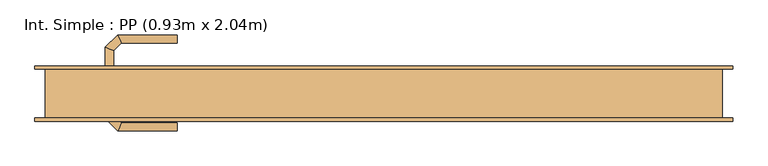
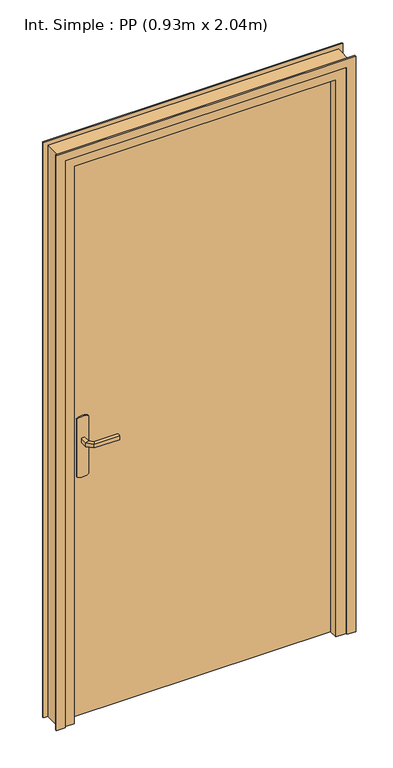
"""IFC4 building model written with IfcOpenShell, lengths in millimetres: door geometry, Int. Simple : PP (0.93m x 2.04m)."""

import ifcopenshell
import ifcopenshell.guid

model = None  # the IFC model being written
_history = None  # IfcOwnerHistory: only IFC2X3 demands one
_inside = {}  # id of a spatial element -> (the spatial element, [elements in it])
_under = {}  # id of a project, library or spatial element -> (it, [spatial elements below it])
_declared = {}  # id of a project -> (the project, [libraries it declares])
_typed = {}  # id of a type object -> (the type object, [elements of that type])
_made_of = {}  # id of a material, layer set ... -> (it, [elements and type objects made of it])


def new_model(schema):
    """Start an empty IFC model of exactly this schema.

    Asked for "IFC4X3", IfcOpenShell would pick the latest addendum, in which some entities
    have other attributes; the version numbers below select the first issue.
    IFC2X3 requires an IfcOwnerHistory on every rooted entity: one is made here for all.
    """
    global model, _history
    if schema == "IFC4X3":
        model = ifcopenshell.file(schema_version=(4, 3, 0, 0))
    else:
        model = ifcopenshell.file(schema=schema)
    _inside.clear()
    _under.clear()
    _declared.clear()
    _typed.clear()
    _made_of.clear()
    _history = None
    if model.schema == "IFC2X3":
        org = make("IfcOrganization", Name="unknown")
        user = make(
            "IfcPersonAndOrganization",
            ThePerson=make("IfcPerson", FamilyName="unknown"),
            TheOrganization=org,
        )
        app = make(
            "IfcApplication",
            ApplicationDeveloper=org,
            Version="unknown",
            ApplicationFullName="unknown",
            ApplicationIdentifier="unknown",
        )
        _history = make(
            "IfcOwnerHistory",
            OwningUser=user,
            OwningApplication=app,
            ChangeAction="ADDED",
            CreationDate=0,
        )
    return model


def make(cls, **values):
    """One entity of the class cls with the attributes given. An attribute that is None is left unset."""
    return model.create_entity(
        cls, **{name: value for name, value in values.items() if value is not None}
    )


def rooted(cls, **values):
    """An entity with a GlobalId (a new one), such as an element, a storey or a relation."""
    return make(cls, GlobalId=ifcopenshell.guid.new(), OwnerHistory=_history, **values)


def si_unit(unit_type, name, prefix=None):
    """IfcSIUnit, for example si_unit("LENGTHUNIT", "METRE", prefix="MILLI")."""
    return make("IfcSIUnit", UnitType=unit_type, Prefix=prefix, Name=name)


def assignment(units):
    """IfcUnitAssignment: the units of a project."""
    return None if units is None else make("IfcUnitAssignment", Units=units)


def point(xyz):
    """IfcCartesianPoint."""
    return None if xyz is None else make("IfcCartesianPoint", Coordinates=xyz)


def direction(xyz):
    """IfcDirection."""
    return None if xyz is None else make("IfcDirection", DirectionRatios=xyz)


def frame(location, z_axis=None, x_axis=None):
    """IfcAxis2Placement3D, a coordinate frame: its origin and axes. An axis left out is left unset."""
    return make(
        "IfcAxis2Placement3D",
        Location=point(location),
        Axis=direction(z_axis),
        RefDirection=direction(x_axis),
    )


def frame_2d(location, x_axis=None):
    """IfcAxis2Placement2D, a coordinate frame in the plane: its origin and x axis."""
    return make(
        "IfcAxis2Placement2D", Location=point(location), RefDirection=direction(x_axis)
    )


def origin():
    """The frame at (0, 0, 0) with its axes left unset."""
    return frame((0.0, 0.0, 0.0))


def origin_with_axes():
    """The frame at (0, 0, 0) with the z axis (0, 0, 1) and the x axis (1, 0, 0) written out."""
    return frame((0.0, 0.0, 0.0), z_axis=(0.0, 0.0, 1.0), x_axis=(1.0, 0.0, 0.0))


def place(relative_to, where):
    """IfcLocalPlacement: puts the frame where relative to a parent placement (None: the world)."""
    return make(
        "IfcLocalPlacement", PlacementRelTo=relative_to, RelativePlacement=where
    )


def context(
    kind, dimensions, precision=None, world=None, true_north=None, identifier=None
):
    """IfcGeometricRepresentationContext, for example the 3D "Model" context."""
    return make(
        "IfcGeometricRepresentationContext",
        ContextIdentifier=identifier,
        ContextType=kind,
        CoordinateSpaceDimension=dimensions,
        Precision=precision,
        WorldCoordinateSystem=world,
        TrueNorth=true_north,
    )


def project(units=None, contexts=None):
    """IfcProject with its units and contexts."""
    return rooted(
        "IfcProject",
        Name="project",
        RepresentationContexts=contexts,
        UnitsInContext=assignment(units),
    )


def spatial(cls, under=None, at=None, **own):
    """A site, building, storey or space (cls), placed at a placement, below another one or the project."""
    s = rooted(cls, ObjectPlacement=at, **own)
    if under is not None:
        _under.setdefault(under.id(), (under, []))[1].append(s)
    return s


def polyline(points):
    """IfcPolyline through the points."""
    return make("IfcPolyline", Points=[point(p) for p in points])


def circle_curve(where, radius):
    """IfcCircle in the frame where."""
    return make("IfcCircle", Position=where, Radius=radius)


def ellipse_curve(where, semi_axis1, semi_axis2):
    """IfcEllipse in the frame where."""
    return make(
        "IfcEllipse", Position=where, SemiAxis1=semi_axis1, SemiAxis2=semi_axis2
    )


def trimmed(basis, trim1, trim2, sense, master):
    """IfcTrimmedCurve: the piece of a basis curve between two trims."""
    return make(
        "IfcTrimmedCurve",
        BasisCurve=basis,
        Trim1=trim1,
        Trim2=trim2,
        SenseAgreement=sense,
        MasterRepresentation=master,
    )


def segment(curve, same_sense, transition):
    """IfcCompositeCurveSegment."""
    return make(
        "IfcCompositeCurveSegment",
        Transition=transition,
        SameSense=same_sense,
        ParentCurve=curve,
    )


def composite_curve(segments, self_intersect=None):
    """IfcCompositeCurve: segments joined end to end."""
    return make("IfcCompositeCurve", Segments=segments, SelfIntersect=self_intersect)


def outline(outer, holes=None, kind="AREA"):
    """IfcArbitraryClosedProfileDef: a profile drawn as a closed curve; with holes, ...WithVoids."""
    if holes is None:
        return make("IfcArbitraryClosedProfileDef", ProfileType=kind, OuterCurve=outer)
    return make(
        "IfcArbitraryProfileDefWithVoids",
        ProfileType=kind,
        OuterCurve=outer,
        InnerCurves=holes,
    )


def extrude(swept, where, along, depth):
    """IfcExtrudedAreaSolid: the profile swept, set in the frame where, extruded along a direction by depth."""
    return make(
        "IfcExtrudedAreaSolid",
        SweptArea=swept,
        Position=where,
        ExtrudedDirection=direction(along),
        Depth=depth,
    )


def faces_of(points, faces, orient=None, outer=None):
    """IfcFace entities. A face is a list of loops; a loop is a list of indices into points, from 0.

    orient and outer hold one flag for each loop. By default every Orientation is true, the
    first loop of a face is its IfcFaceOuterBound and the others are IfcFaceBound.
    """
    made = []
    for i, loops in enumerate(faces):
        bounds = []
        for j, loop in enumerate(loops):
            is_outer = j == 0 if outer is None else outer[i][j]
            bounds.append(
                make(
                    "IfcFaceOuterBound" if is_outer else "IfcFaceBound",
                    Bound=make("IfcPolyLoop", Polygon=[points[k] for k in loop]),
                    Orientation=True if orient is None else orient[i][j],
                )
            )
        made.append(make("IfcFace", Bounds=bounds))
    return made


def faceted_brep(points, faces, orient=None, outer=None, voids=None):
    """IfcFacetedBrep: a solid bounded by flat faces; with voids (closed shells), ...WithVoids."""
    shared = [point(p) for p in points]
    hull = make("IfcClosedShell", CfsFaces=faces_of(shared, faces, orient, outer))
    if voids is None:
        return make("IfcFacetedBrep", Outer=hull)
    return make(
        "IfcFacetedBrepWithVoids",
        Outer=hull,
        Voids=[
            make(cls, CfsFaces=faces_of(shared, fs, o, b)) for cls, fs, o, b in voids
        ],
    )


def shape(context_of_items, identifier, shape_type, items):
    """IfcShapeRepresentation: the items that make up one representation, for example the "Body"."""
    return make(
        "IfcShapeRepresentation",
        ContextOfItems=context_of_items,
        RepresentationIdentifier=identifier,
        RepresentationType=shape_type,
        Items=items,
    )


def source(mapping_origin, context_of_items, identifier, shape_type, items):
    """IfcRepresentationMap: a shape defined once, which mapped items show again and again."""
    return make(
        "IfcRepresentationMap",
        MappingOrigin=mapping_origin,
        MappedRepresentation=shape(context_of_items, identifier, shape_type, items),
    )


def transform(
    local_origin,
    x_axis=None,
    y_axis=None,
    z_axis=None,
    scale=None,
    scale2=None,
    scale3=None,
    uniform=True,
):
    """IfcCartesianTransformationOperator3D, or its non-uniform kind. x_axis, y_axis, z_axis: its Axis1, 2, 3."""
    if uniform:
        return make(
            "IfcCartesianTransformationOperator3D",
            Axis1=direction(x_axis),
            Axis2=direction(y_axis),
            LocalOrigin=point(local_origin),
            Scale=scale,
            Axis3=direction(z_axis),
        )
    return make(
        "IfcCartesianTransformationOperator3DnonUniform",
        Axis1=direction(x_axis),
        Axis2=direction(y_axis),
        LocalOrigin=point(local_origin),
        Scale=scale,
        Axis3=direction(z_axis),
        Scale2=scale2,
        Scale3=scale3,
    )


def mapped(mapping_source, mapping_target):
    """IfcMappedItem: shows the shape of a source again, moved by a transform."""
    return make(
        "IfcMappedItem", MappingSource=mapping_source, MappingTarget=mapping_target
    )


def made_of(thing, what):
    """Note that an element or type object is made of a material, layer set ...; save() writes the relation."""
    if what is not None:
        _made_of.setdefault(what.id(), (what, []))[1].append(thing)
    return thing


def element(
    cls,
    number,
    at=None,
    inside=None,
    cuts=None,
    type_object=None,
    material=None,
    context=None,
    identifier="Body",
    shape_type=None,
    held_by="IfcProductDefinitionShape",
    body=None,
    shapes=None,
    **own,
):
    """One element of the class cls, such as IfcWall. Its Tag is "e" and its number.

    at: its placement. inside: the storey or other place that contains it. cuts: it is an
    opening in that element (IfcRelVoidsElement). A single representation is given by context,
    identifier, shape_type and body (its items); several are given by shapes. held_by: the class
    of the entity that holds the representations. save() writes the other relations.
    """
    e = rooted(cls, Tag="e%d" % number, ObjectPlacement=at, **own)
    if body is not None:
        shapes = [shape(context, identifier, shape_type, body)]
    if shapes is not None:
        e.Representation = make(held_by, Representations=shapes)
    if inside is not None:
        _inside.setdefault(inside.id(), (inside, []))[1].append(e)
    if cuts is not None:
        rooted(
            "IfcRelVoidsElement", RelatingBuildingElement=cuts, RelatedOpeningElement=e
        )
    if type_object is not None:
        _typed.setdefault(type_object.id(), (type_object, []))[1].append(e)
    return made_of(e, material)


def aggregate(whole, parts):
    """IfcRelAggregates: a whole, such as a stair, and the parts it consists of."""
    return rooted("IfcRelAggregates", RelatingObject=whole, RelatedObjects=parts)


def save(model, path):
    """Write the relations noted so far, then the file.

    IfcRelAggregates (storeys below a building ...), IfcRelContainedInSpatialStructure (elements
    in a storey), IfcRelDefinesByType, IfcRelAssociatesMaterial and IfcRelDeclares: one each for
    every whole, place, type object, material and project.
    """
    for whole, parts in _under.values():
        aggregate(whole, parts)
    for where, things in _inside.values():
        rooted(
            "IfcRelContainedInSpatialStructure",
            RelatedElements=things,
            RelatingStructure=where,
        )
    for kind, things in _typed.values():
        rooted("IfcRelDefinesByType", RelatedObjects=things, RelatingType=kind)
    for what, things in _made_of.values():
        rooted("IfcRelAssociatesMaterial", RelatedObjects=things, RelatingMaterial=what)
    for by, libraries in _declared.values():
        rooted("IfcRelDeclares", RelatingContext=by, RelatedDefinitions=libraries)
    model.write(path)


def plane_surface(at):
    """IfcPlane: the flat surface through the origin of the frame at, square to its z axis."""
    return make("IfcPlane", Position=at)


def cylinder_surface(at, radius):
    """IfcCylindricalSurface: all points at the distance radius from the z axis of the frame at."""
    return make("IfcCylindricalSurface", Position=at, Radius=radius)


def advanced_brep(points, edges, surfaces, faces):
    """IfcAdvancedBrep: a solid bounded by faces that lie on surfaces and meet in shared edges.

    An edge is (start, end): straight between two places in points (the first is 0);
    or (start, end, curve); or (start, end, curve, False) where it runs against its curve.
    A face is (place in surfaces, loops), or (place, loops, False) where it looks against
    its surface's normal. A loop lists edges by number (the first is 1), with a minus sign
    where the edge is run from its end to its start. The first loop is the outer one.
    """
    corners = [point(p) for p in points]
    vertices = [make("IfcVertexPoint", VertexGeometry=c) for c in corners]
    made = []
    for start, end, *more in edges:
        made.append(
            make(
                "IfcEdgeCurve",
                EdgeStart=vertices[start],
                EdgeEnd=vertices[end],
                EdgeGeometry=more[0] if more else make("IfcPolyline", Points=[corners[start], corners[end]]),
                SameSense=more[1] if len(more) > 1 else True,
            )
        )
    hull = []
    for where, loops, *sense in faces:
        bounds = []
        for j, loop in enumerate(loops):
            ring = [make("IfcOrientedEdge", EdgeElement=made[abs(k) - 1], Orientation=k > 0) for k in loop]
            bounds.append(
                make(
                    "IfcFaceOuterBound" if j == 0 else "IfcFaceBound",
                    Bound=make("IfcEdgeLoop", EdgeList=ring),
                    Orientation=True,
                )
            )
        hull.append(make("IfcAdvancedFace", Bounds=bounds, FaceSurface=surfaces[where], SameSense=sense[0] if sense else True))
    return make("IfcAdvancedBrep", Outer=make("IfcClosedShell", CfsFaces=hull))


def int_simple_pp_0_93m_x_2_04m_1a1e59e4(model_context):
    return source(origin(), model_context, "Body", "SolidModel", [
        extrude(outline(composite_curve([segment(trimmed(circle_curve(frame_2d((904.6410162, -440.0)), 40.0), [point((870.0, -460.0))], [point((870.0, -420.0))], False, "CARTESIAN"), True, "CONTINUOUS"), segment(polyline([(870.0, -420.0), (1080.0, -420.0)]), True, "CONTINUOUS"), segment(trimmed(circle_curve(frame_2d((1045.3589838, -440.0)), 40.0), [point((1080.0, -420.0))], [point((1080.0, -460.0))], False, "CARTESIAN"), True, "CONTINUOUS"), segment(polyline([(1080.0, -460.0), (870.0, -460.0)]), True, "CONTINUOUS")], self_intersect=False)), frame((0.0, 36.0, 0.0), z_axis=(0.0, 1.0, 0.0), x_axis=(0.0, 0.0, 1.0)), (0.0, 0.0, 1.0), 5.0),
        extrude(outline(composite_curve([segment(trimmed(circle_curve(frame_2d((1045.3589838, -440.0)), 40.0), [point((1080.0, -420.0))], [point((1080.0, -460.0))], False, "CARTESIAN"), True, "CONTINUOUS"), segment(polyline([(1080.0, -460.0), (870.0, -460.0)]), True, "CONTINUOUS"), segment(trimmed(circle_curve(frame_2d((904.6410162, -440.0)), 40.0), [point((870.0, -460.0))], [point((870.0, -420.0))], False, "CARTESIAN"), True, "CONTINUOUS"), segment(polyline([(870.0, -420.0), (1080.0, -420.0)]), True, "CONTINUOUS")], self_intersect=False)), frame((0.0, -9.0, 0.0), z_axis=(0.0, 1.0, 0.0), x_axis=(0.0, 0.0, 1.0)), (0.0, 0.0, 1.0), 5.0),
        advanced_brep(
        [(-446.0, 41.0, 1007.0), (-446.0, 41.0, 993.0), (-434.0, 41.0, 993.0), (-434.0, 41.0, 1007.0), (-434.0, 63.680388, 1007.0), (-446.0, 68.6509507, 1007.0), (-434.0, 63.680388, 993.0), (-446.0, 68.6509507, 993.0), (-422.6522273, 75.0281607, 1007.0), (-427.62279, 87.0281607, 1007.0), (-422.6522273, 75.0281607, 993.0), (-427.62279, 87.0281607, 993.0), (-339.9813594, 87.0281607, 1007.0), (-339.9813594, 75.0281607, 1007.0), (-339.9813594, 75.0281607, 993.0), (-339.9813594, 87.0281607, 993.0)],
        [
            (0, 1),
            (1, 2, circle_curve(frame((-440.0, 41.0, 1013.0457722), z_axis=(0.0, -1.0, 0.0), x_axis=(1.0, 0.0, 0.0)), 20.9244589)),
            (2, 3),
            (3, 0, circle_curve(frame((-440.0, 41.0, 986.9542278), z_axis=(0.0, -1.0, 0.0), x_axis=(1.0, 0.0, 0.0)), 20.9244589)),
            (3, 4),
            (4, 5, ellipse_curve(frame((-440.0, 66.1656693, 986.9542278), z_axis=(-0.3826834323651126, -0.9238795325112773, 0.0), x_axis=(0.9238795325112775, -0.38268343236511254, 0.0)), 22.6484711, 20.9244589)),
            (5, 0),
            (2, 6),
            (6, 4),
            (1, 7),
            (7, 6, ellipse_curve(frame((-440.0, 66.1656693, 1013.0457722), z_axis=(-0.3826834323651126, -0.9238795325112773, 0.0), x_axis=(0.9238795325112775, -0.38268343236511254, 0.0)), 22.6484711, 20.9244589)),
            (5, 7),
            (4, 8),
            (8, 9, ellipse_curve(frame((-425.1375086, 81.0281607, 986.9542278), z_axis=(-0.9238795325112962, -0.38268343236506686, 0.0), x_axis=(0.3826834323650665, -0.9238795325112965, 0.0)), 22.6484711, 20.9244589)),
            (9, 5),
            (6, 10),
            (10, 8),
            (7, 11),
            (11, 10, ellipse_curve(frame((-425.1375086, 81.0281607, 1013.0457722), z_axis=(-0.9238795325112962, -0.38268343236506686, 0.0), x_axis=(0.3826834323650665, -0.9238795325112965, 0.0)), 22.6484711, 20.9244589)),
            (9, 11),
            (12, 13, circle_curve(frame((-339.9813594, 81.0281607, 986.9542278), z_axis=(1.0, 0.0, 0.0), x_axis=(0.0, -1.0, 0.0)), 20.9244589)),
            (13, 14),
            (14, 15, circle_curve(frame((-339.9813594, 81.0281607, 1013.0457722), z_axis=(1.0, 0.0, 0.0), x_axis=(0.0, -1.0, 0.0)), 20.9244589)),
            (15, 12),
            (8, 13),
            (12, 9),
            (10, 14),
            (11, 15),
        ],
        [
            plane_surface(frame((-449.2195445, 41.0, 1000.0), z_axis=(0.0, -1.0, 0.0), x_axis=(0.0, 0.0, -1.0))),
            cylinder_surface(frame((-440.0, 41.0, 986.9542278), z_axis=(0.0, -1.0, 0.0), x_axis=(1.0, 0.0, 0.0)), 20.9244589),
            plane_surface(frame((-434.0, 41.0, 1007.0), z_axis=(1.0, 0.0, 0.0), x_axis=(0.0, 1.0, 0.0))),
            cylinder_surface(frame((-440.0, 41.0, 1013.0457722), z_axis=(0.0, -1.0, 0.0), x_axis=(1.0, 0.0, 0.0)), 20.9244589),
            plane_surface(frame((-446.0, 41.0, 993.0), z_axis=(-1.0, 0.0, 0.0), x_axis=(0.0, 1.0, 0.0))),
            cylinder_surface(frame((-440.0, 66.1656693, 986.9542278), z_axis=(-0.7071067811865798, -0.7071067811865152, 0.0), x_axis=(0.7071067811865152, -0.7071067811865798, 0.0)), 20.9244589),
            plane_surface(frame((-434.0, 63.680388, 1007.0), z_axis=(0.7071067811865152, -0.7071067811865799, 0.0), x_axis=(0.7071067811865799, 0.7071067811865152, 0.0))),
            cylinder_surface(frame((-440.0, 66.1656693, 1013.0457722), z_axis=(-0.7071067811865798, -0.7071067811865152, 0.0), x_axis=(0.7071067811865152, -0.7071067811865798, 0.0)), 20.9244589),
            plane_surface(frame((-446.0, 68.6509507, 993.0), z_axis=(-0.7071067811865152, 0.7071067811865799, 0.0), x_axis=(0.7071067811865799, 0.7071067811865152, 0.0))),
            plane_surface(frame((-339.9813594, 81.0281607, 990.7804555), z_axis=(1.0, 0.0, 0.0), x_axis=(0.0, -1.0, 0.0))),
            cylinder_surface(frame((-425.1375086, 81.0281607, 986.9542278), z_axis=(-1.0, 0.0, 0.0), x_axis=(0.0, -1.0, 0.0)), 20.9244589),
            plane_surface(frame((-422.6522273, 75.0281607, 1007.0), z_axis=(0.0, -1.0, 0.0), x_axis=(1.0, 0.0, 0.0))),
            cylinder_surface(frame((-425.1375086, 81.0281607, 1013.0457722), z_axis=(-1.0, 0.0, 0.0), x_axis=(0.0, -1.0, 0.0)), 20.9244589),
            plane_surface(frame((-427.62279, 87.0281607, 993.0), z_axis=(0.0, 1.0, 0.0), x_axis=(1.0, 0.0, 0.0))),
        ],
        [
            (0, [[1, 2, 3, 4]]),
            (1, [[5, 6, 7, -4]]),
            (2, [[8, 9, -5, -3]]),
            (3, [[10, 11, -8, -2]]),
            (4, [[-7, 12, -10, -1]]),
            (5, [[13, 14, 15, -6]]),
            (6, [[16, 17, -13, -9]]),
            (7, [[18, 19, -16, -11]]),
            (8, [[-15, 20, -18, -12]]),
            (9, [[21, 22, 23, 24]]),
            (10, [[25, -21, 26, -14]]),
            (11, [[27, -22, -25, -17]]),
            (12, [[28, -23, -27, -19]]),
            (13, [[-26, -24, -28, -20]]),
        ],
    ),
        advanced_brep(
        [(-434.0, -9.0, 993.0), (-446.0, -9.0, 993.0), (-446.0, -9.0, 1007.0), (-434.0, -9.0, 1007.0), (-434.0, -31.4852045, 1007.0), (-434.0, -31.4852045, 993.0), (-446.0, -36.4557673, 1007.0), (-446.0, -36.4557673, 993.0), (-422.5147186, -42.9704859, 1007.0), (-422.5147186, -42.9704859, 993.0), (-427.4852814, -54.9704859, 1007.0), (-427.4852814, -54.9704859, 993.0), (-339.9542163, -42.9704859, 993.0), (-339.9542163, -42.9704859, 1007.0), (-339.9542163, -54.9704859, 1007.0), (-339.9542163, -54.9704859, 993.0)],
        [
            (0, 1, circle_curve(frame((-440.0, -9.0, 1013.0457722), z_axis=(0.0, 1.0, 0.0), x_axis=(-1.0, 0.0, 0.0)), 20.9244589)),
            (1, 2),
            (2, 3, circle_curve(frame((-440.0, -9.0, 986.9542278), z_axis=(0.0, 1.0, 0.0), x_axis=(-1.0, 0.0, 0.0)), 20.9244589)),
            (3, 0),
            (3, 4),
            (4, 5),
            (5, 0),
            (2, 6),
            (6, 4, ellipse_curve(frame((-440.0, -33.9704859, 986.9542278), z_axis=(-0.3826834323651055, 0.9238795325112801, 0.0), x_axis=(0.9238795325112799, 0.3826834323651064, 0.0)), 22.6484711, 20.9244589)),
            (1, 7),
            (7, 6),
            (5, 7, ellipse_curve(frame((-440.0, -33.9704859, 1013.0457722), z_axis=(-0.3826834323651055, 0.9238795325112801, 0.0), x_axis=(0.9238795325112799, 0.3826834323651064, 0.0)), 22.6484711, 20.9244589)),
            (4, 8),
            (8, 9),
            (9, 5),
            (6, 10),
            (10, 8, ellipse_curve(frame((-425.0, -48.9704859, 986.9542278), z_axis=(-0.9238795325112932, 0.382683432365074, 0.0), x_axis=(0.3826834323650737, 0.9238795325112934, 0.0)), 22.6484711, 20.9244589)),
            (7, 11),
            (11, 10),
            (9, 11, ellipse_curve(frame((-425.0, -48.9704859, 1013.0457722), z_axis=(-0.9238795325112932, 0.382683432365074, 0.0), x_axis=(0.3826834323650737, 0.9238795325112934, 0.0)), 22.6484711, 20.9244589)),
            (12, 13),
            (13, 14, circle_curve(frame((-339.9542163, -48.9704859, 986.9542278), z_axis=(1.0, 0.0, 0.0), x_axis=(0.0, -1.0, 0.0)), 20.9244589)),
            (14, 15),
            (15, 12, circle_curve(frame((-339.9542163, -48.9704859, 1013.0457722), z_axis=(1.0, 0.0, 0.0), x_axis=(0.0, -1.0, 0.0)), 20.9244589)),
            (8, 13),
            (12, 9),
            (10, 14),
            (11, 15),
        ],
        [
            plane_surface(frame((-449.2195445, -9.0, 1000.0), z_axis=(0.0, 1.0, 0.0), x_axis=(0.0, 0.0, 1.0))),
            plane_surface(frame((-434.0, -9.0, 993.0), z_axis=(1.0, 0.0, 0.0), x_axis=(0.0, -1.0, 0.0))),
            cylinder_surface(frame((-440.0, -9.0, 986.9542278), z_axis=(0.0, 1.0, 0.0), x_axis=(-1.0, 0.0, 0.0)), 20.9244589),
            plane_surface(frame((-446.0, -9.0, 1007.0), z_axis=(-1.0, 0.0, 0.0), x_axis=(0.0, -1.0, 0.0))),
            cylinder_surface(frame((-440.0, -9.0, 1013.0457722), z_axis=(0.0, 1.0, 0.0), x_axis=(-1.0, 0.0, 0.0)), 20.9244589),
            plane_surface(frame((-434.0, -31.4852045, 993.0), z_axis=(0.7071067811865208, 0.7071067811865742, 0.0), x_axis=(0.7071067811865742, -0.7071067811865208, 0.0))),
            cylinder_surface(frame((-440.0, -33.9704859, 986.9542278), z_axis=(-0.7071067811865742, 0.7071067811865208, 0.0), x_axis=(-0.7071067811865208, -0.7071067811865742, 0.0)), 20.9244589),
            plane_surface(frame((-446.0, -36.4557673, 1007.0), z_axis=(-0.7071067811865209, -0.7071067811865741, 0.0), x_axis=(0.7071067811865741, -0.7071067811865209, 0.0))),
            cylinder_surface(frame((-440.0, -33.9704859, 1013.0457722), z_axis=(-0.7071067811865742, 0.7071067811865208, 0.0), x_axis=(-0.7071067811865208, -0.7071067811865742, 0.0)), 20.9244589),
            plane_surface(frame((-339.9542163, -48.9704859, 990.7804555), z_axis=(1.0, 0.0, 0.0), x_axis=(0.0, -1.0, 0.0))),
            plane_surface(frame((-422.5147186, -42.9704859, 993.0), z_axis=(0.0, 1.0, 0.0), x_axis=(1.0, 0.0, 0.0))),
            cylinder_surface(frame((-425.0, -48.9704859, 986.9542278), z_axis=(-1.0, 0.0, 0.0), x_axis=(0.0, -1.0, 0.0)), 20.9244589),
            plane_surface(frame((-427.4852814, -54.9704859, 1007.0), z_axis=(0.0, -1.0, 0.0), x_axis=(1.0, 0.0, 0.0))),
            cylinder_surface(frame((-425.0, -48.9704859, 1013.0457722), z_axis=(-1.0, 0.0, 0.0), x_axis=(0.0, -1.0, 0.0)), 20.9244589),
        ],
        [
            (0, [[1, 2, 3, 4]]),
            (1, [[5, 6, 7, -4]]),
            (2, [[8, 9, -5, -3]]),
            (3, [[10, 11, -8, -2]]),
            (4, [[-7, 12, -10, -1]]),
            (5, [[13, 14, 15, -6]]),
            (6, [[16, 17, -13, -9]]),
            (7, [[18, 19, -16, -11]]),
            (8, [[-15, 20, -18, -12]]),
            (9, [[21, 22, 23, 24]]),
            (10, [[25, -21, 26, -14]]),
            (11, [[27, -22, -25, -17]]),
            (12, [[28, -23, -27, -19]]),
            (13, [[-26, -24, -28, -20]]),
        ],
    ),
        extrude(outline(polyline([(-500.0, -4.0), (-500.0, 36.0), (430.0, 36.0), (430.0, -4.0), (-500.0, -4.0)])), origin_with_axes(), (0.0, 0.0, 1.0), 2040.0),
        faceted_brep([(-535.0, 36.0, 0.0), (-500.0, 36.0, 0.0), (-500.0, -4.0, 0.0), (-485.0, -4.0, 0.0), (-485.0, -36.0, 0.0), (-535.0, -36.0, 0.0), (-535.0, -36.0, 2075.0), (-535.0, 36.0, 2075.0), (-485.0, -36.0, 2025.0), (415.0, -36.0, 2025.0), (415.0, -36.0, 0.0), (465.0, -36.0, 0.0), (465.0, -36.0, 2075.0), (-485.0, -4.0, 2025.0), (-500.0, -4.0, 2040.0), (430.0, -4.0, 2040.0), (430.0, -4.0, 0.0), (415.0, -4.0, 0.0), (415.0, -4.0, 2025.0), (-500.0, 36.0, 2040.0), (465.0, 36.0, 2075.0), (465.0, 36.0, 0.0), (430.0, 36.0, 0.0), (430.0, 36.0, 2040.0)], [[[0, 1, 2, 3, 4, 5]], [[5, 6, 7, 0]], [[4, 8, 9, 10, 11, 12, 6, 5]], [[3, 13, 8, 4]], [[2, 14, 15, 16, 17, 18, 13, 3]], [[1, 19, 14, 2]], [[0, 7, 20, 21, 22, 23, 19, 1]], [[12, 11, 21, 20]], [[21, 11, 10, 17, 16, 22]], [[18, 17, 10, 9]], [[23, 22, 16, 15]], [[6, 12, 20, 7]], [[13, 18, 9, 8]], [[19, 23, 15, 14]]]),
        extrude(outline(polyline([(0.0, -520.0), (2060.0, -520.0), (2060.0, 450.0), (0.0, 450.0), (0.0, 480.0), (2090.0, 480.0), (2090.0, -550.0), (0.0, -550.0), (0.0, -520.0)])), frame((0.0, 36.0, 0.0), z_axis=(0.0, 1.0, 0.0), x_axis=(0.0, 0.0, 1.0)), (0.0, 0.0, 1.0), 5.0),
        extrude(outline(polyline([(0.0, -520.0), (2060.0, -520.0), (2060.0, 450.0), (0.0, 450.0), (0.0, 480.0), (2090.0, 480.0), (2090.0, -550.0), (0.0, -550.0), (0.0, -520.0)])), frame((0.0, -41.0, 0.0), z_axis=(0.0, 1.0, 0.0), x_axis=(0.0, 0.0, 1.0)), (0.0, 0.0, 1.0), 5.0),
    ])


if __name__ == "__main__":
    model = new_model("IFC4")
    model_context = context("Model", 3, world=origin())
    ifc_project = project(units=[si_unit("LENGTHUNIT", "METRE", prefix="MILLI")], contexts=[model_context])
    site = spatial("IfcSite", under=ifc_project)
    building = spatial("IfcBuilding", under=site)
    placement = place(None, origin())
    int_simple_pp_0_93m_x_2_04m_shape = int_simple_pp_0_93m_x_2_04m_1a1e59e4(model_context)
    element("IfcDoor", 1, ObjectType="Int. Simple : PP (0.93m x 2.04m)", at=placement, inside=building, context=model_context, shape_type="MappedRepresentation", body=[
        mapped(int_simple_pp_0_93m_x_2_04m_shape, transform((0.0, 0.0, 0.0), x_axis=(1.0, 0.0, 0.0), y_axis=(0.0, 1.0, 0.0), z_axis=(0.0, 0.0, 1.0))),
    ])
    save(model, "model.ifc")
